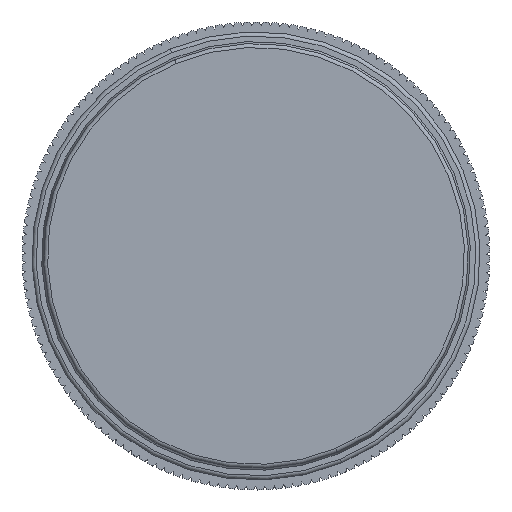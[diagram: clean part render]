
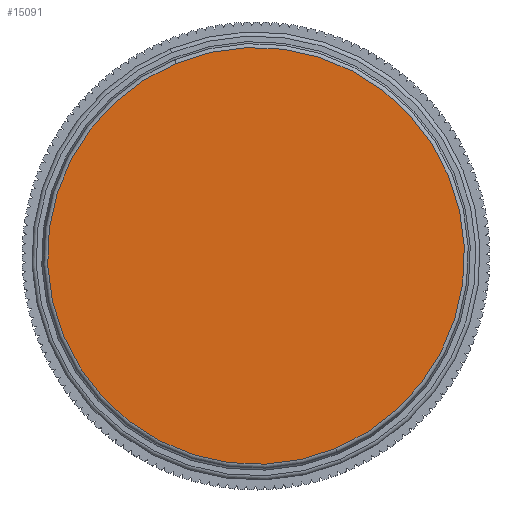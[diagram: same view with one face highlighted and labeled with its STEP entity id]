
A CAD part, top view. The second image highlights one B-rep face of the part: STEP entity #15091.
In plain terms, the highlighted planar face has unit normal (0, 0, 1).
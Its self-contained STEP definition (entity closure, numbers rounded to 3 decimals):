
#36 = EDGE_LOOP ( 'NONE', ( #3781, #557 ) ) ;
#509 = CARTESIAN_POINT ( 'NONE',  ( -9.945, -1.357, 28. ) ) ;
#557 = ORIENTED_EDGE ( 'NONE', *, *, #4237, .F. ) ;
#3531 = DIRECTION ( 'NONE',  ( 0.383, -0.924, 0. ) ) ;
#3781 = ORIENTED_EDGE ( 'NONE', *, *, #8167, .F. ) ;
#4237 = EDGE_CURVE ( 'NONE', #7260, #6099, #6188, .T. ) ;
#4730 = DIRECTION ( 'NONE',  ( -0.383, 0.924, 0. ) ) ;
#5644 = CIRCLE ( 'NONE', #11776, 25.486 ) ;
#6099 = VERTEX_POINT ( 'NONE', #19089 ) ;
#6188 = CIRCLE ( 'NONE', #11719, 25.486 ) ;
#6552 = CARTESIAN_POINT ( 'NONE',  ( -0.183, -24.899, 28. ) ) ;
#7260 = VERTEX_POINT ( 'NONE', #13660 ) ;
#8167 = EDGE_CURVE ( 'NONE', #6099, #7260, #5644, .T. ) ;
#9017 = DIRECTION ( 'NONE',  ( 0., 0., -1. ) ) ;
#9378 = FACE_OUTER_BOUND ( 'NONE', #36, .T. ) ;
#10550 = DIRECTION ( 'NONE',  ( 0.383, -0.924, 0. ) ) ;
#10641 = AXIS2_PLACEMENT_3D ( 'NONE', #6552, #14062, #4730 ) ;
#11719 = AXIS2_PLACEMENT_3D ( 'NONE', #19897, #9017, #10550 ) ;
#11776 = AXIS2_PLACEMENT_3D ( 'NONE', #509, #15799, #3531 ) ;
#13660 = CARTESIAN_POINT ( 'NONE',  ( -19.708, 22.185, 28. ) ) ;
#14062 = DIRECTION ( 'NONE',  ( 0., 0., 1. ) ) ;
#15091 = ADVANCED_FACE ( 'NONE', ( #9378 ), #18639, .T. ) ;
#15799 = DIRECTION ( 'NONE',  ( 0., 0., -1. ) ) ;
#18639 = PLANE ( 'NONE',  #10641 ) ;
#19089 = CARTESIAN_POINT ( 'NONE',  ( -0.183, -24.899, 28. ) ) ;
#19897 = CARTESIAN_POINT ( 'NONE',  ( -9.945, -1.357, 28. ) ) ;
